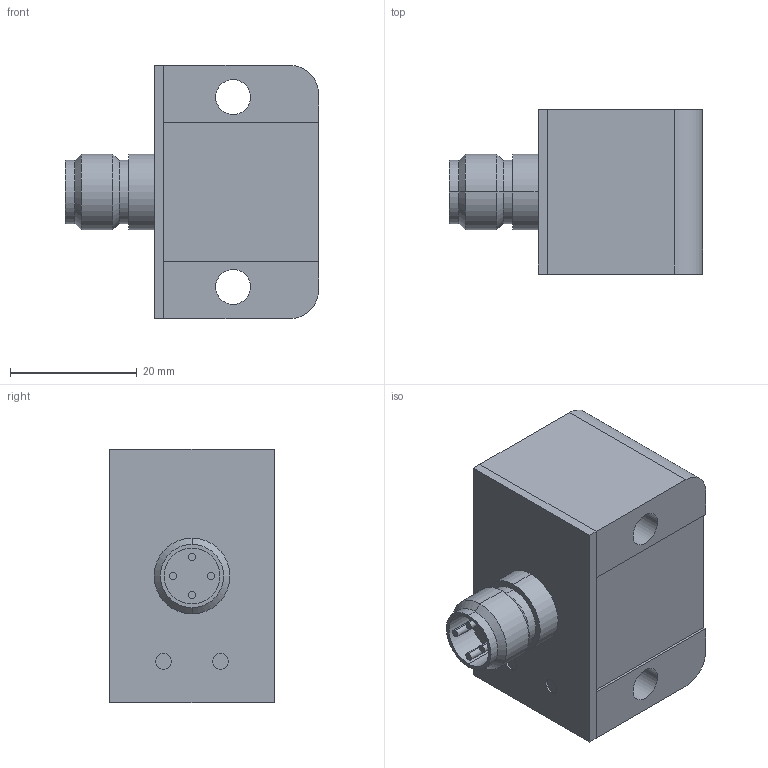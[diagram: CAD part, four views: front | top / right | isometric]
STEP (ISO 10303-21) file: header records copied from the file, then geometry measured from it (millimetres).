
FILE_DESCRIPTION(('starvars output'),'2;1');
FILE_NAME('IN5245_3.stp','16:02:42 2007/04/16',( 'Thomas Industrial Network Germany GmbH'),( 'Thomas Industrial Network Germany GmbH'),'unknown preprocess','ACIS' ,'unknown authorization');
FILE_SCHEMA(('CONFIG_CONTROL_DESIGN {UNKNOWN IMPLEMENTATION LEVEL}'));
Length unit declared in the file: millimetre
Products named in the file (5): PRODUCT_ID_275; PRODUCT_ID_276; PRODUCT_ID_277; PRODUCT_ID_278; PRODUCT_ID_279
Bounding box: 40 x 26 x 40 mm (x, y, z)
Volume: 26237.5 mm3; surface area: 9453.7 mm2
Topology: 5 solids, 5 shells, 144 faces, 364 edges, 240 vertices
Faces by surface type: cylinder 72, plane 68, cone 4
Entity records: 4368 total; most frequent: ORIENTED_EDGE 728, CARTESIAN_POINT 643, DIRECTION 590, EDGE_CURVE 364, VERTEX_POINT 240, VECTOR 216, LINE 216, EDGE_LOOP 194
